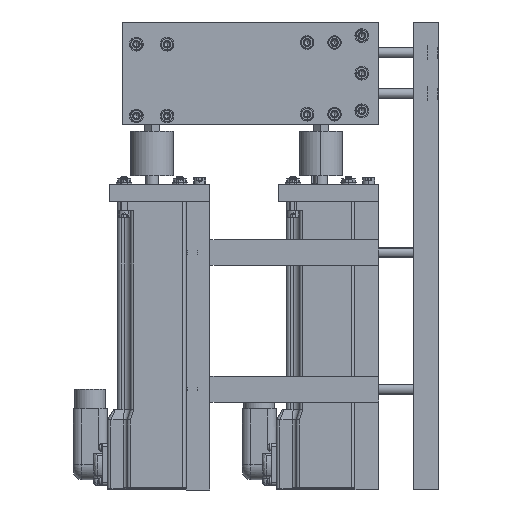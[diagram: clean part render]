
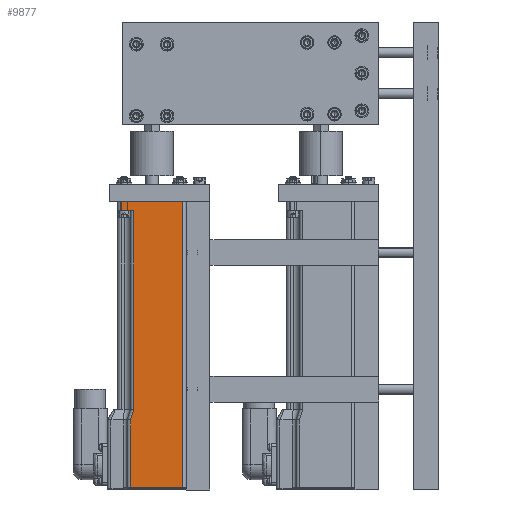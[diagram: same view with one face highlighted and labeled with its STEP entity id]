
A CAD part, left-side view. The second image highlights one B-rep face of the part: STEP entity #9877.
In plain terms, the highlighted planar face has unit normal (-1, 0, 0).
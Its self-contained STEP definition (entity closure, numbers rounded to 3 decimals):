
#365 = CARTESIAN_POINT ( 'NONE',  ( -572.026, 185.884, -110.5 ) ) ;
#417 = CARTESIAN_POINT ( 'NONE',  ( -572.026, 167.884, -105. ) ) ;
#1691 = CARTESIAN_POINT ( 'NONE',  ( -572.026, 149.884, -110.5 ) ) ;
#5767 = VERTEX_POINT ( 'NONE', #81413 ) ;
#8887 = EDGE_CURVE ( 'NONE', #89498, #63821, #54660, .T. ) ;
#9793 = CARTESIAN_POINT ( 'NONE',  ( -572.026, 185.884, -110.5 ) ) ;
#9861 = DIRECTION ( 'NONE',  ( 0., 0., -1. ) ) ;
#9877 = ADVANCED_FACE ( 'NONE', ( #82258 ), #75755, .T. ) ;
#10964 = CARTESIAN_POINT ( 'NONE',  ( -572.026, 149.884, -105. ) ) ;
#11477 = CARTESIAN_POINT ( 'NONE',  ( -572.026, 185.884, -110.5 ) ) ;
#11559 = LINE ( 'NONE', #365, #86122 ) ;
#15464 = LINE ( 'NONE', #36754, #33105 ) ;
#19231 = DIRECTION ( 'NONE',  ( -1., 0., 0. ) ) ;
#19250 = ORIENTED_EDGE ( 'NONE', *, *, #42952, .T. ) ;
#19321 = ORIENTED_EDGE ( 'NONE', *, *, #95585, .T. ) ;
#23744 = DIRECTION ( 'NONE',  ( 0., -1., 0. ) ) ;
#25230 = CARTESIAN_POINT ( 'NONE',  ( -572.026, 178.384, -227. ) ) ;
#26025 = VERTEX_POINT ( 'NONE', #82902 ) ;
#27178 = LINE ( 'NONE', #92552, #104313 ) ;
#28834 = VERTEX_POINT ( 'NONE', #65907 ) ;
#31979 = CARTESIAN_POINT ( 'NONE',  ( -572.026, 185.884, -105. ) ) ;
#33105 = VECTOR ( 'NONE', #77432, 1000. ) ;
#33153 = CARTESIAN_POINT ( 'NONE',  ( -572.026, 185.884, -110.5 ) ) ;
#33192 = VECTOR ( 'NONE', #67704, 1000. ) ;
#36754 = CARTESIAN_POINT ( 'NONE',  ( -572.026, 178.384, -227. ) ) ;
#39926 = CARTESIAN_POINT ( 'NONE',  ( -572.026, 180.384, -273. ) ) ;
#42952 = EDGE_CURVE ( 'NONE', #26025, #55893, #15464, .T. ) ;
#44088 = ORIENTED_EDGE ( 'NONE', *, *, #97916, .F. ) ;
#45641 = LINE ( 'NONE', #417, #98777 ) ;
#48414 = ORIENTED_EDGE ( 'NONE', *, *, #8887, .F. ) ;
#53180 = EDGE_CURVE ( 'NONE', #5767, #26025, #57864, .T. ) ;
#53329 = DIRECTION ( 'NONE',  ( 0., -1., 0. ) ) ;
#54660 = LINE ( 'NONE', #1691, #33192 ) ;
#55756 = DIRECTION ( 'NONE',  ( 0., -1., 0. ) ) ;
#55878 = EDGE_LOOP ( 'NONE', ( #44088, #93846, #75076, #80797, #19250, #91955, #19321, #48414 ) ) ;
#55893 = VERTEX_POINT ( 'NONE', #68235 ) ;
#56895 = DIRECTION ( 'NONE',  ( 0., 0., -1. ) ) ;
#57864 = LINE ( 'NONE', #25230, #83204 ) ;
#59132 = DIRECTION ( 'NONE',  ( 0., 0., 1. ) ) ;
#61339 = VERTEX_POINT ( 'NONE', #9793 ) ;
#63415 = VECTOR ( 'NONE', #56895, 1000. ) ;
#63821 = VERTEX_POINT ( 'NONE', #89187 ) ;
#65286 = LINE ( 'NONE', #33153, #100514 ) ;
#65907 = CARTESIAN_POINT ( 'NONE',  ( -572.026, 180.384, -272.5 ) ) ;
#67704 = DIRECTION ( 'NONE',  ( 0., 0., -1. ) ) ;
#68235 = CARTESIAN_POINT ( 'NONE',  ( -572.026, 180.384, -233. ) ) ;
#71036 = LINE ( 'NONE', #39926, #63415 ) ;
#75076 = ORIENTED_EDGE ( 'NONE', *, *, #88329, .T. ) ;
#75755 = PLANE ( 'NONE',  #104876 ) ;
#77432 = DIRECTION ( 'NONE',  ( 0., 0.316, -0.949 ) ) ;
#80797 = ORIENTED_EDGE ( 'NONE', *, *, #53180, .T. ) ;
#81413 = CARTESIAN_POINT ( 'NONE',  ( -572.026, 178.384, -110.5 ) ) ;
#82258 = FACE_OUTER_BOUND ( 'NONE', #55878, .T. ) ;
#82902 = CARTESIAN_POINT ( 'NONE',  ( -572.026, 178.384, -227. ) ) ;
#83204 = VECTOR ( 'NONE', #89119, 1000. ) ;
#86122 = VECTOR ( 'NONE', #55756, 1000. ) ;
#88329 = EDGE_CURVE ( 'NONE', #61339, #5767, #11559, .T. ) ;
#89119 = DIRECTION ( 'NONE',  ( 0., 0., -1. ) ) ;
#89187 = CARTESIAN_POINT ( 'NONE',  ( -572.026, 149.884, -272.5 ) ) ;
#89498 = VERTEX_POINT ( 'NONE', #10964 ) ;
#91955 = ORIENTED_EDGE ( 'NONE', *, *, #97921, .T. ) ;
#92552 = CARTESIAN_POINT ( 'NONE',  ( -572.026, 180.384, -272.5 ) ) ;
#93115 = EDGE_CURVE ( 'NONE', #101637, #61339, #65286, .T. ) ;
#93846 = ORIENTED_EDGE ( 'NONE', *, *, #93115, .T. ) ;
#95585 = EDGE_CURVE ( 'NONE', #28834, #63821, #27178, .T. ) ;
#97916 = EDGE_CURVE ( 'NONE', #101637, #89498, #45641, .T. ) ;
#97921 = EDGE_CURVE ( 'NONE', #55893, #28834, #71036, .T. ) ;
#98777 = VECTOR ( 'NONE', #23744, 1000. ) ;
#100514 = VECTOR ( 'NONE', #9861, 1000. ) ;
#101637 = VERTEX_POINT ( 'NONE', #31979 ) ;
#104313 = VECTOR ( 'NONE', #53329, 1000. ) ;
#104876 = AXIS2_PLACEMENT_3D ( 'NONE', #11477, #19231, #59132 ) ;
